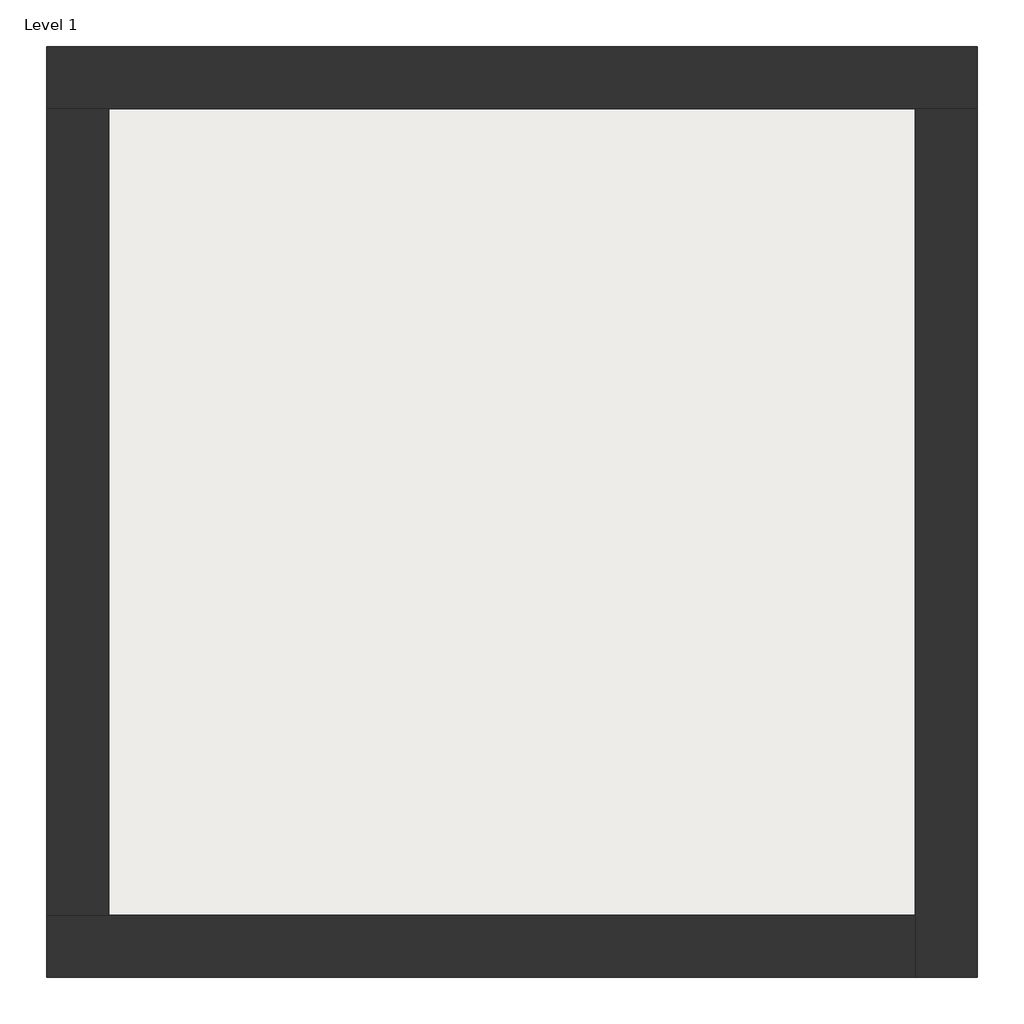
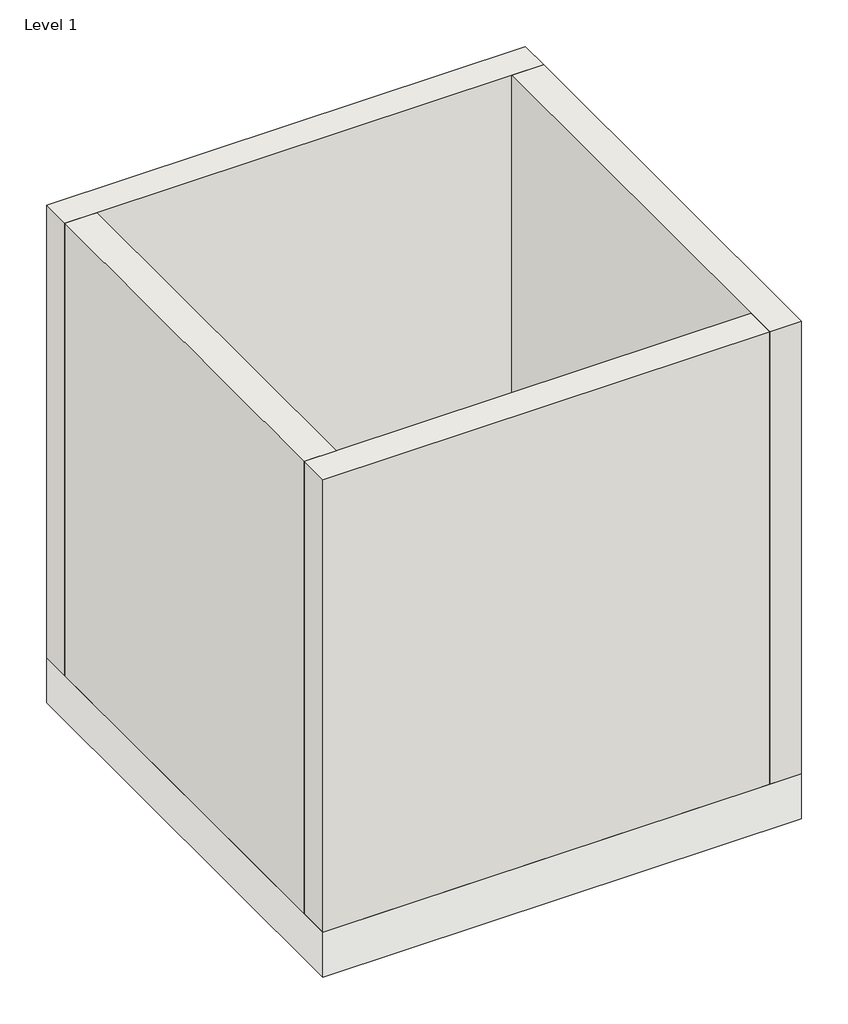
# One storey, incomplete: 4 walls, 1 slab.
"""IFC4 building model written with IfcOpenShell, lengths in millimetres."""

from ifc_helpers import new_model, si_unit, frame, origin, origin_with_axes, place, context, project, spatial, polyline, outline, extrude, faceted_brep, element, save

model = new_model("IFC4")

# Units and contexts
model_context = context("Model", 3, world=origin())
ifc_project = project(units=[si_unit("LENGTHUNIT", "METRE", prefix="MILLI")], contexts=[model_context])

# Site, building, storey
site = spatial("IfcSite", under=ifc_project)
building = spatial("IfcBuilding", under=site)
storey = spatial("IfcBuildingStorey", under=building, Name="Level 1", Elevation=0.0)

# Slab
placement = place(None, origin())
element("IfcSlab", 1, ObjectType="Generic 300mm", at=placement, inside=storey, context=model_context, shape_type="SweptSolid", body=[
    extrude(outline(polyline([(-8121.3122346, 11213.1412882), (-8121.3122346, 8213.1412882), (-11121.3122346, 8213.1412882), (-11121.3122346, 11213.1412882), (-8121.3122346, 11213.1412882)])), frame((0.0, 0.0, -300.0), z_axis=(0.0, 0.0, 1.0), x_axis=(1.0, 0.0, 0.0)), (0.0, 0.0, 1.0), 300.0),
])

# Walls
element("IfcWall", 2, ObjectType="Generic - 200mm", at=placement, inside=storey, context=model_context, shape_type="Brep", body=[
    faceted_brep([(-11121.3122346, 11013.1412882, 0.0), (-10921.3122346, 11013.1412882, 0.0), (-8321.3122346, 11013.1412882, 0.0), (-8121.3122346, 11013.1412882, 0.0), (-8121.3122346, 11013.1412882, 3000.0), (-8321.3122346, 11013.1412882, 3000.0), (-10921.3122346, 11013.1412882, 3000.0), (-11121.3122346, 11013.1412882, 3000.0), (-11121.3122346, 11213.1412882, 0.0), (-11121.3122346, 11213.1412882, 3000.0), (-8121.3122346, 11213.1412882, 3000.0), (-8121.3122346, 11213.1412882, 0.0)], [[[0, 1, 2, 3, 4, 5, 6, 7]], [[8, 9, 10, 11]], [[3, 2, 1, 0, 8, 11]], [[7, 6, 5, 4, 10, 9]], [[4, 3, 11, 10]], [[0, 7, 9, 8]]]),
])
element("IfcWall", 3, ObjectType="Generic - 200mm", at=placement, inside=storey, context=model_context, shape_type="Brep", body=[
    faceted_brep([(-8321.3122346, 11013.1412882, 0.0), (-8321.3122346, 8413.1412882, 0.0), (-8321.3122346, 8213.1412882, 0.0), (-8321.3122346, 8213.1412882, 3000.0), (-8321.3122346, 8413.1412882, 3000.0), (-8321.3122346, 11013.1412882, 3000.0), (-8121.3122346, 11013.1412882, 0.0), (-8121.3122346, 11013.1412882, 3000.0), (-8121.3122346, 8213.1412882, 3000.0), (-8121.3122346, 8213.1412882, 0.0)], [[[0, 1, 2, 3, 4, 5]], [[6, 7, 8, 9]], [[2, 1, 0, 6, 9]], [[5, 4, 3, 8, 7]], [[0, 5, 7, 6]], [[3, 2, 9, 8]]]),
])
element("IfcWall", 4, ObjectType="Generic - 200mm", at=placement, inside=storey, context=model_context, shape_type="Brep", body=[
    faceted_brep([(-8321.3122346, 8413.1412882, 0.0), (-10921.3122346, 8413.1412882, 0.0), (-11121.3122346, 8413.1412882, 0.0), (-11121.3122346, 8413.1412882, 3000.0), (-10921.3122346, 8413.1412882, 3000.0), (-8321.3122346, 8413.1412882, 3000.0), (-8321.3122346, 8213.1412882, 0.0), (-8321.3122346, 8213.1412882, 3000.0), (-11121.3122346, 8213.1412882, 3000.0), (-11121.3122346, 8213.1412882, 0.0)], [[[0, 1, 2, 3, 4, 5]], [[6, 7, 8, 9]], [[2, 1, 0, 6, 9]], [[5, 4, 3, 8, 7]], [[0, 5, 7, 6]], [[3, 2, 9, 8]]]),
])
element("IfcWall", 5, ObjectType="Generic - 200mm", at=placement, inside=storey, context=model_context, shape_type="SweptSolid", body=[
    extrude(outline(polyline([(-10921.3122346, 11013.1412882), (-10921.3122346, 8413.1412882), (-11121.3122346, 8413.1412882), (-11121.3122346, 11013.1412882), (-10921.3122346, 11013.1412882)])), origin_with_axes(), (0.0, 0.0, 1.0), 3000.0),
])

save(model, "model.ifc")
